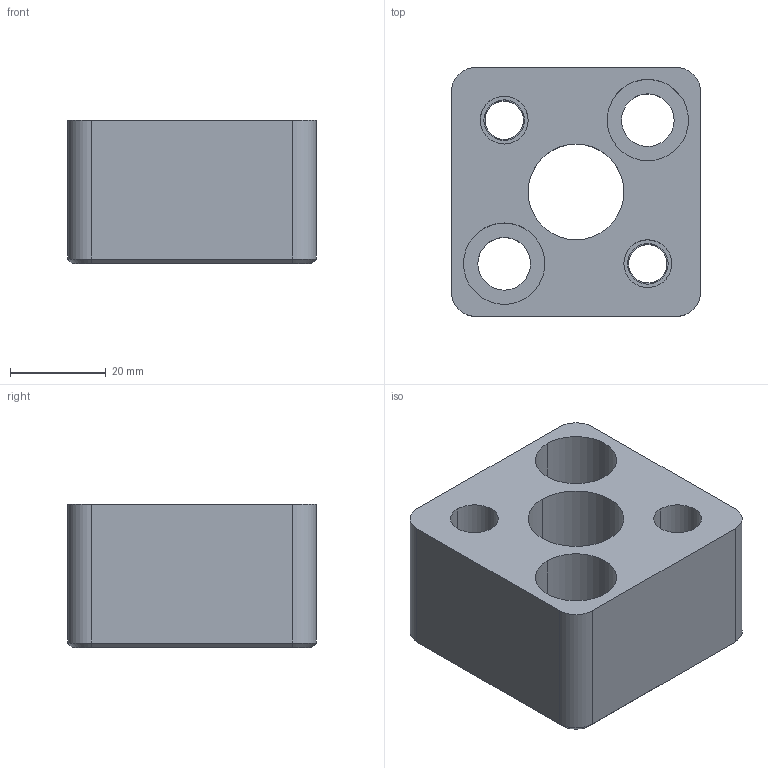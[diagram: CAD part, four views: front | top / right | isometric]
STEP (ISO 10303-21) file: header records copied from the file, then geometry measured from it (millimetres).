
FILE_DESCRIPTION(/* description */ (''),/* implementation_level */ '2;1');
FILE_NAME(/* name */ '3d_hsr-an20_04191_r00.stp',/* time_stamp */ '2011-01-10T14:14:35+09:00',/* author */ ('MISUMI'),/* organization */ (''),/* preprocessor_version */ 'ST-DEVELOPER v11',/* originating_system */ 'UGS - NX 5.0',/* authorisation */ '');
FILE_SCHEMA (('CONFIG_CONTROL_DESIGN'));
Length unit declared in the file: millimetre
Products named in the file (1): 3d_hsr-an20_04191_r00
Bounding box: 52 x 52 x 30 mm (x, y, z)
Volume: 57549.2 mm3; surface area: 16179.8 mm2
Topology: 1 solids, 1 shells, 51 faces, 116 edges, 74 vertices
Faces by surface type: cylinder 28, plane 17, cone 6
Entity records: 1562 total; most frequent: DIRECTION 278, CARTESIAN_POINT 254, ORIENTED_EDGE 232, EDGE_CURVE 116, AXIS2_PLACEMENT_3D 114, VERTEX_POINT 74, EDGE_LOOP 68, CIRCLE 62
